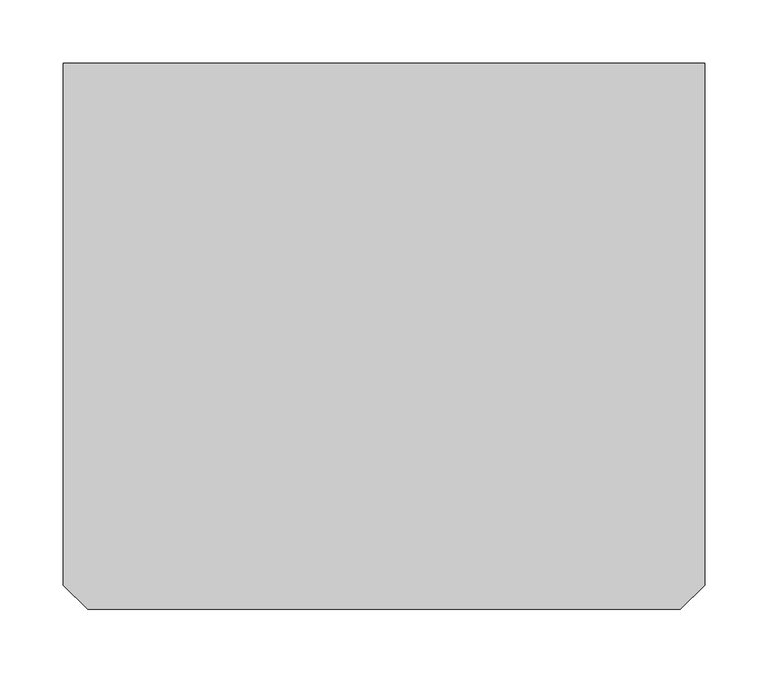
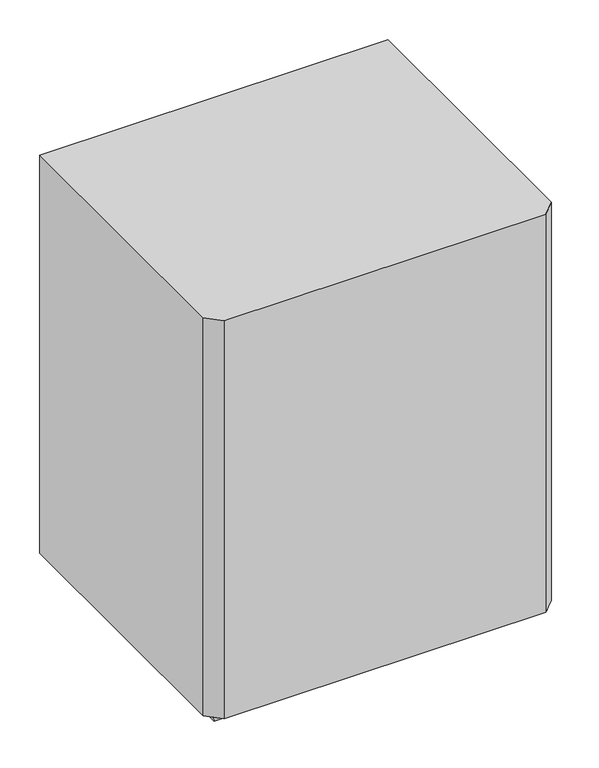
"""IFC4 building model written with IfcOpenShell, lengths in millimetres: proxy geometry, COFFRET BATTERIE ABM 1G : COFFRET BATTERIE ABM 1G."""

import ifcopenshell
import ifcopenshell.guid

model = None  # the IFC model being written
_history = None  # IfcOwnerHistory: only IFC2X3 demands one
_inside = {}  # id of a spatial element -> (the spatial element, [elements in it])
_under = {}  # id of a project, library or spatial element -> (it, [spatial elements below it])
_declared = {}  # id of a project -> (the project, [libraries it declares])
_typed = {}  # id of a type object -> (the type object, [elements of that type])
_made_of = {}  # id of a material, layer set ... -> (it, [elements and type objects made of it])


def new_model(schema):
    """Start an empty IFC model of exactly this schema.

    Asked for "IFC4X3", IfcOpenShell would pick the latest addendum, in which some entities
    have other attributes; the version numbers below select the first issue.
    IFC2X3 requires an IfcOwnerHistory on every rooted entity: one is made here for all.
    """
    global model, _history
    if schema == "IFC4X3":
        model = ifcopenshell.file(schema_version=(4, 3, 0, 0))
    else:
        model = ifcopenshell.file(schema=schema)
    _inside.clear()
    _under.clear()
    _declared.clear()
    _typed.clear()
    _made_of.clear()
    _history = None
    if model.schema == "IFC2X3":
        org = make("IfcOrganization", Name="unknown")
        user = make(
            "IfcPersonAndOrganization",
            ThePerson=make("IfcPerson", FamilyName="unknown"),
            TheOrganization=org,
        )
        app = make(
            "IfcApplication",
            ApplicationDeveloper=org,
            Version="unknown",
            ApplicationFullName="unknown",
            ApplicationIdentifier="unknown",
        )
        _history = make(
            "IfcOwnerHistory",
            OwningUser=user,
            OwningApplication=app,
            ChangeAction="ADDED",
            CreationDate=0,
        )
    return model


def make(cls, **values):
    """One entity of the class cls with the attributes given. An attribute that is None is left unset."""
    return model.create_entity(
        cls, **{name: value for name, value in values.items() if value is not None}
    )


def rooted(cls, **values):
    """An entity with a GlobalId (a new one), such as an element, a storey or a relation."""
    return make(cls, GlobalId=ifcopenshell.guid.new(), OwnerHistory=_history, **values)


def si_unit(unit_type, name, prefix=None):
    """IfcSIUnit, for example si_unit("LENGTHUNIT", "METRE", prefix="MILLI")."""
    return make("IfcSIUnit", UnitType=unit_type, Prefix=prefix, Name=name)


def assignment(units):
    """IfcUnitAssignment: the units of a project."""
    return None if units is None else make("IfcUnitAssignment", Units=units)


def point(xyz):
    """IfcCartesianPoint."""
    return None if xyz is None else make("IfcCartesianPoint", Coordinates=xyz)


def direction(xyz):
    """IfcDirection."""
    return None if xyz is None else make("IfcDirection", DirectionRatios=xyz)


def frame(location, z_axis=None, x_axis=None):
    """IfcAxis2Placement3D, a coordinate frame: its origin and axes. An axis left out is left unset."""
    return make(
        "IfcAxis2Placement3D",
        Location=point(location),
        Axis=direction(z_axis),
        RefDirection=direction(x_axis),
    )


def origin():
    """The frame at (0, 0, 0) with its axes left unset."""
    return frame((0.0, 0.0, 0.0))


def place(relative_to, where):
    """IfcLocalPlacement: puts the frame where relative to a parent placement (None: the world)."""
    return make(
        "IfcLocalPlacement", PlacementRelTo=relative_to, RelativePlacement=where
    )


def context(
    kind, dimensions, precision=None, world=None, true_north=None, identifier=None
):
    """IfcGeometricRepresentationContext, for example the 3D "Model" context."""
    return make(
        "IfcGeometricRepresentationContext",
        ContextIdentifier=identifier,
        ContextType=kind,
        CoordinateSpaceDimension=dimensions,
        Precision=precision,
        WorldCoordinateSystem=world,
        TrueNorth=true_north,
    )


def project(units=None, contexts=None):
    """IfcProject with its units and contexts."""
    return rooted(
        "IfcProject",
        Name="project",
        RepresentationContexts=contexts,
        UnitsInContext=assignment(units),
    )


def spatial(cls, under=None, at=None, **own):
    """A site, building, storey or space (cls), placed at a placement, below another one or the project."""
    s = rooted(cls, ObjectPlacement=at, **own)
    if under is not None:
        _under.setdefault(under.id(), (under, []))[1].append(s)
    return s


def polyline(points):
    """IfcPolyline through the points."""
    return make("IfcPolyline", Points=[point(p) for p in points])


def outline(outer, holes=None, kind="AREA"):
    """IfcArbitraryClosedProfileDef: a profile drawn as a closed curve; with holes, ...WithVoids."""
    if holes is None:
        return make("IfcArbitraryClosedProfileDef", ProfileType=kind, OuterCurve=outer)
    return make(
        "IfcArbitraryProfileDefWithVoids",
        ProfileType=kind,
        OuterCurve=outer,
        InnerCurves=holes,
    )


def extrude(swept, where, along, depth):
    """IfcExtrudedAreaSolid: the profile swept, set in the frame where, extruded along a direction by depth."""
    return make(
        "IfcExtrudedAreaSolid",
        SweptArea=swept,
        Position=where,
        ExtrudedDirection=direction(along),
        Depth=depth,
    )


def faces_of(points, faces, orient=None, outer=None):
    """IfcFace entities. A face is a list of loops; a loop is a list of indices into points, from 0.

    orient and outer hold one flag for each loop. By default every Orientation is true, the
    first loop of a face is its IfcFaceOuterBound and the others are IfcFaceBound.
    """
    made = []
    for i, loops in enumerate(faces):
        bounds = []
        for j, loop in enumerate(loops):
            is_outer = j == 0 if outer is None else outer[i][j]
            bounds.append(
                make(
                    "IfcFaceOuterBound" if is_outer else "IfcFaceBound",
                    Bound=make("IfcPolyLoop", Polygon=[points[k] for k in loop]),
                    Orientation=True if orient is None else orient[i][j],
                )
            )
        made.append(make("IfcFace", Bounds=bounds))
    return made


def faceted_brep(points, faces, orient=None, outer=None, voids=None):
    """IfcFacetedBrep: a solid bounded by flat faces; with voids (closed shells), ...WithVoids."""
    shared = [point(p) for p in points]
    hull = make("IfcClosedShell", CfsFaces=faces_of(shared, faces, orient, outer))
    if voids is None:
        return make("IfcFacetedBrep", Outer=hull)
    return make(
        "IfcFacetedBrepWithVoids",
        Outer=hull,
        Voids=[
            make(cls, CfsFaces=faces_of(shared, fs, o, b)) for cls, fs, o, b in voids
        ],
    )


def shape(context_of_items, identifier, shape_type, items):
    """IfcShapeRepresentation: the items that make up one representation, for example the "Body"."""
    return make(
        "IfcShapeRepresentation",
        ContextOfItems=context_of_items,
        RepresentationIdentifier=identifier,
        RepresentationType=shape_type,
        Items=items,
    )


def source(mapping_origin, context_of_items, identifier, shape_type, items):
    """IfcRepresentationMap: a shape defined once, which mapped items show again and again."""
    return make(
        "IfcRepresentationMap",
        MappingOrigin=mapping_origin,
        MappedRepresentation=shape(context_of_items, identifier, shape_type, items),
    )


def transform(
    local_origin,
    x_axis=None,
    y_axis=None,
    z_axis=None,
    scale=None,
    scale2=None,
    scale3=None,
    uniform=True,
):
    """IfcCartesianTransformationOperator3D, or its non-uniform kind. x_axis, y_axis, z_axis: its Axis1, 2, 3."""
    if uniform:
        return make(
            "IfcCartesianTransformationOperator3D",
            Axis1=direction(x_axis),
            Axis2=direction(y_axis),
            LocalOrigin=point(local_origin),
            Scale=scale,
            Axis3=direction(z_axis),
        )
    return make(
        "IfcCartesianTransformationOperator3DnonUniform",
        Axis1=direction(x_axis),
        Axis2=direction(y_axis),
        LocalOrigin=point(local_origin),
        Scale=scale,
        Axis3=direction(z_axis),
        Scale2=scale2,
        Scale3=scale3,
    )


def mapped(mapping_source, mapping_target):
    """IfcMappedItem: shows the shape of a source again, moved by a transform."""
    return make(
        "IfcMappedItem", MappingSource=mapping_source, MappingTarget=mapping_target
    )


def made_of(thing, what):
    """Note that an element or type object is made of a material, layer set ...; save() writes the relation."""
    if what is not None:
        _made_of.setdefault(what.id(), (what, []))[1].append(thing)
    return thing


def element(
    cls,
    number,
    at=None,
    inside=None,
    cuts=None,
    type_object=None,
    material=None,
    context=None,
    identifier="Body",
    shape_type=None,
    held_by="IfcProductDefinitionShape",
    body=None,
    shapes=None,
    **own,
):
    """One element of the class cls, such as IfcWall. Its Tag is "e" and its number.

    at: its placement. inside: the storey or other place that contains it. cuts: it is an
    opening in that element (IfcRelVoidsElement). A single representation is given by context,
    identifier, shape_type and body (its items); several are given by shapes. held_by: the class
    of the entity that holds the representations. save() writes the other relations.
    """
    e = rooted(cls, Tag="e%d" % number, ObjectPlacement=at, **own)
    if body is not None:
        shapes = [shape(context, identifier, shape_type, body)]
    if shapes is not None:
        e.Representation = make(held_by, Representations=shapes)
    if inside is not None:
        _inside.setdefault(inside.id(), (inside, []))[1].append(e)
    if cuts is not None:
        rooted(
            "IfcRelVoidsElement", RelatingBuildingElement=cuts, RelatedOpeningElement=e
        )
    if type_object is not None:
        _typed.setdefault(type_object.id(), (type_object, []))[1].append(e)
    return made_of(e, material)


def aggregate(whole, parts):
    """IfcRelAggregates: a whole, such as a stair, and the parts it consists of."""
    return rooted("IfcRelAggregates", RelatingObject=whole, RelatedObjects=parts)


def save(model, path):
    """Write the relations noted so far, then the file.

    IfcRelAggregates (storeys below a building ...), IfcRelContainedInSpatialStructure (elements
    in a storey), IfcRelDefinesByType, IfcRelAssociatesMaterial and IfcRelDeclares: one each for
    every whole, place, type object, material and project.
    """
    for whole, parts in _under.values():
        aggregate(whole, parts)
    for where, things in _inside.values():
        rooted(
            "IfcRelContainedInSpatialStructure",
            RelatedElements=things,
            RelatingStructure=where,
        )
    for kind, things in _typed.values():
        rooted("IfcRelDefinesByType", RelatedObjects=things, RelatingType=kind)
    for what, things in _made_of.values():
        rooted("IfcRelAssociatesMaterial", RelatedObjects=things, RelatingMaterial=what)
    for by, libraries in _declared.values():
        rooted("IfcRelDeclares", RelatingContext=by, RelatedDefinitions=libraries)
    model.write(path)


def electrical_equipment_efc7b7c8(model_context):
    return source(origin(), model_context, "Body", "SolidModel", [
        faceted_brep([(-223.8224524, -186.3224524, 0.0), (-223.8224524, -203.6775476, 0.0), (-241.1775476, -203.6775476, 0.0), (-241.1775476, -186.3224524, 0.0), (-222.5, -185.0, 7.5), (-242.5, -185.0, 7.5), (-242.5, -205.0, 7.5), (-222.5, -205.0, 7.5)], [[[0, 1, 2, 3]], [[4, 5, 6, 7]], [[5, 4, 0, 3]], [[6, 5, 3, 2]], [[7, 6, 2, 1]], [[4, 7, 1, 0]]]),
        faceted_brep([(241.1775476, -186.3224524, 0.0), (241.1775476, -203.6775476, 0.0), (223.8224524, -203.6775476, 0.0), (223.8224524, -186.3224524, 0.0), (242.5, -185.0, 7.5), (222.5, -185.0, 7.5), (222.5, -205.0, 7.5), (242.5, -205.0, 7.5)], [[[0, 1, 2, 3]], [[4, 5, 6, 7]], [[5, 4, 0, 3]], [[6, 5, 3, 2]], [[7, 6, 2, 1]], [[4, 7, 1, 0]]]),
        faceted_brep([(241.1775476, 203.6775476, 0.0), (241.1775476, 186.3224524, 0.0), (223.8224524, 186.3224524, 0.0), (223.8224524, 203.6775476, 0.0), (242.5, 205.0, 7.5), (222.5, 205.0, 7.5), (222.5, 185.0, 7.5), (242.5, 185.0, 7.5)], [[[0, 1, 2, 3]], [[4, 5, 6, 7]], [[5, 4, 0, 3]], [[6, 5, 3, 2]], [[7, 6, 2, 1]], [[4, 7, 1, 0]]]),
        faceted_brep([(-223.8224524, 203.6775476, 0.0), (-223.8224524, 186.3224524, 0.0), (-241.1775476, 186.3224524, 0.0), (-241.1775476, 203.6775476, 0.0), (-222.5, 205.0, 7.5), (-242.5, 205.0, 7.5), (-242.5, 185.0, 7.5), (-222.5, 185.0, 7.5)], [[[0, 1, 2, 3]], [[4, 5, 6, 7]], [[5, 4, 0, 3]], [[6, 5, 3, 2]], [[7, 6, 2, 1]], [[4, 7, 1, 0]]]),
        extrude(outline(polyline([(252.5, 215.0), (252.5, -196.0), (233.5, -215.0), (-233.5, -215.0), (-252.5, -196.0), (-252.5, 215.0), (252.5, 215.0)])), frame((0.0, 0.0, 7.5), z_axis=(0.0, 0.0, 1.0), x_axis=(1.0, 0.0, 0.0)), (0.0, 0.0, 1.0), 610.0),
    ])


if __name__ == "__main__":
    model = new_model("IFC4")
    model_context = context("Model", 3, world=origin())
    ifc_project = project(units=[si_unit("LENGTHUNIT", "METRE", prefix="MILLI")], contexts=[model_context])
    site = spatial("IfcSite", under=ifc_project)
    building = spatial("IfcBuilding", under=site)
    placement = place(None, origin())
    electrical_equipment_shape = electrical_equipment_efc7b7c8(model_context)
    element("IfcBuildingElementProxy", 1, Name="COFFRET BATTERIE ABM 1G : COFFRET BATTERIE ABM 1G", ObjectType="COFFRET BATTERIE ABM 1G : COFFRET BATTERIE ABM 1G", at=placement, inside=building, context=model_context, shape_type="MappedRepresentation", body=[
        mapped(electrical_equipment_shape, transform((0.0, 0.0, 0.0), x_axis=(1.0, 0.0, 0.0), y_axis=(0.0, 1.0, 0.0), z_axis=(0.0, 0.0, 1.0))),
    ])
    save(model, "model.ifc")
